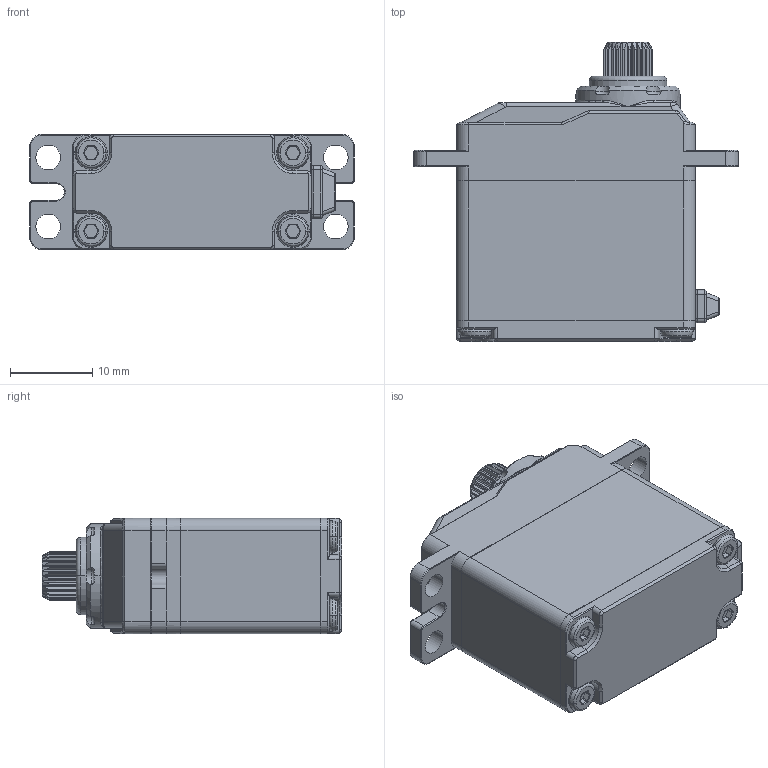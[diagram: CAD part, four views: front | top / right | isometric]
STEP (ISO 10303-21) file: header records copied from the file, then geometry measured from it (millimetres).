
FILE_DESCRIPTION((''),'2;1');
FILE_NAME('DDJ-A30','2025-06-18T',('扂'),(''),'PRO/ENGINEER BY PARAMETRIC TECHNOLOGY CORPORATION, 2010280','PRO/ENGINEER BY PARAMETRIC TECHNOLOGY CORPORATION, 2010280','');
FILE_SCHEMA(('CONFIG_CONTROL_DESIGN'));
Length unit declared in the file: millimetre
Products named in the file (1): DDJ-A30
Bounding box: 39.4 x 36.3 x 14 mm (x, y, z)
Volume: 12064.1 mm3; surface area: 3923.6 mm2
Topology: 1 solids, 1 shells, 610 faces, 1561 edges, 960 vertices
Faces by surface type: cylinder 229, plane 227, cone 60, torus 59, bspline 27, sphere 8
Entity records: 22114 total; most frequent: CARTESIAN_POINT 7462, ORIENTED_EDGE 3104, DIRECTION 3048, EDGE_CURVE 1552, AXIS2_PLACEMENT_3D 1134, VERTEX_POINT 960, VECTOR 780, LINE 780
